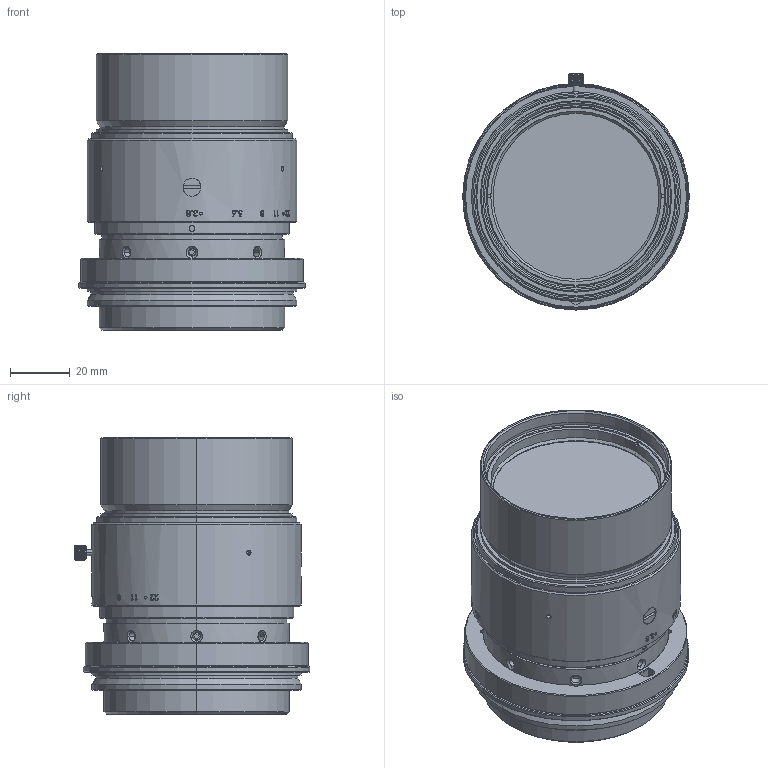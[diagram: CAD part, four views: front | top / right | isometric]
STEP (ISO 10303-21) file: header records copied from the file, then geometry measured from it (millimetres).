
FILE_DESCRIPTION (( 'STEP AP203' ), '1' );
FILE_NAME ('3d_ml-13538-82v70-033.STEP', '2016-02-25T04:11:06', ( '' ), ( '' ), 'SwSTEP 2.0', 'SolidWorks 2014', '' );
FILE_SCHEMA (( 'CONFIG_CONTROL_DESIGN' ));
Products named in the file (1): 3d_ml-13538-82v70-033
Bounding box: 75.8 x 78.9 x 92.4 mm (x, y, z)
Volume: 274577.4 mm3; surface area: 38965.8 mm2
Topology: 1 solids, 2 shells, 947 faces, 2489 edges, 1618 vertices
Faces by surface type: bspline 304, plane 304, cylinder 222, cone 109, torus 6, sphere 2
Entity records: 58945 total; most frequent: CARTESIAN_POINT 38390, ORIENTED_EDGE 4966, DIRECTION 3052, EDGE_CURVE 2483, VERTEX_POINT 1618, B_SPLINE_CURVE_WITH_KNOTS 1235, AXIS2_PLACEMENT_3D 1165, EDGE_LOOP 1047
